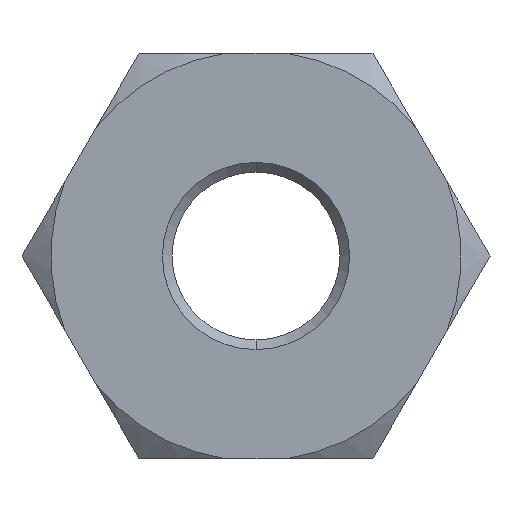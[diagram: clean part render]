
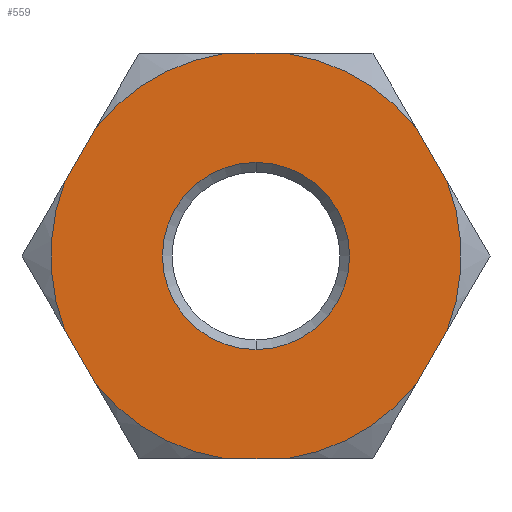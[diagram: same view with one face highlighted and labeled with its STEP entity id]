
A CAD part, front view. The second image highlights one B-rep face of the part: STEP entity #559.
In plain terms, the highlighted planar face has unit normal (0, -1, 0).
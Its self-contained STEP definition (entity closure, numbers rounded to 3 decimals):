
#9 = CIRCLE ( 'NONE', #275, 10.624 ) ;
#16 = CARTESIAN_POINT ( 'NONE',  ( -12.124, 0., 0. ) ) ;
#21 = ORIENTED_EDGE ( 'NONE', *, *, #891, .F. ) ;
#25 = CARTESIAN_POINT ( 'NONE',  ( 0., 0., 0. ) ) ;
#29 = CARTESIAN_POINT ( 'NONE',  ( -8.283, 0., -6.654 ) ) ;
#30 = AXIS2_PLACEMENT_3D ( 'NONE', #805, #883, #984 ) ;
#32 = CARTESIAN_POINT ( 'NONE',  ( 6.062, 0., -10.5 ) ) ;
#36 = DIRECTION ( 'NONE',  ( 0., 1., 0. ) ) ;
#38 = PLANE ( 'NONE',  #163 ) ;
#80 = CIRCLE ( 'NONE', #980, 10.624 ) ;
#81 = EDGE_CURVE ( 'NONE', #308, #529, #962, .T. ) ;
#87 = CARTESIAN_POINT ( 'NONE',  ( 0., 0., 0. ) ) ;
#88 = DIRECTION ( 'NONE',  ( -0.5, 0., 0.866 ) ) ;
#100 = CARTESIAN_POINT ( 'NONE',  ( 0., 0., 0. ) ) ;
#103 = CARTESIAN_POINT ( 'NONE',  ( -9.904, 0., 3.846 ) ) ;
#110 = LINE ( 'NONE', #930, #976 ) ;
#112 = DIRECTION ( 'NONE',  ( 0., 0., 1. ) ) ;
#117 = DIRECTION ( 'NONE',  ( 0., 0., 1. ) ) ;
#120 = VECTOR ( 'NONE', #684, 1000. ) ;
#128 = ORIENTED_EDGE ( 'NONE', *, *, #182, .F. ) ;
#129 = CARTESIAN_POINT ( 'NONE',  ( -8.283, 0., 6.654 ) ) ;
#131 = CIRCLE ( 'NONE', #1007, 4.85 ) ;
#137 = CARTESIAN_POINT ( 'NONE',  ( 0., 0., 0. ) ) ;
#157 = CARTESIAN_POINT ( 'NONE',  ( -6.062, 0., -10.5 ) ) ;
#163 = AXIS2_PLACEMENT_3D ( 'NONE', #387, #36, #614 ) ;
#182 = EDGE_CURVE ( 'NONE', #515, #865, #829, .T. ) ;
#183 = CARTESIAN_POINT ( 'NONE',  ( 6.062, 0., 10.5 ) ) ;
#188 = EDGE_CURVE ( 'NONE', #1101, #252, #340, .T. ) ;
#191 = VECTOR ( 'NONE', #272, 1000. ) ;
#205 = ORIENTED_EDGE ( 'NONE', *, *, #244, .F. ) ;
#207 = EDGE_CURVE ( 'NONE', #617, #529, #80, .T. ) ;
#244 = EDGE_CURVE ( 'NONE', #759, #1061, #110, .T. ) ;
#246 = CIRCLE ( 'NONE', #349, 10.624 ) ;
#251 = CARTESIAN_POINT ( 'NONE',  ( 9.904, 0., -3.846 ) ) ;
#252 = VERTEX_POINT ( 'NONE', #103 ) ;
#255 = CARTESIAN_POINT ( 'NONE',  ( 0., 0., 0. ) ) ;
#272 = DIRECTION ( 'NONE',  ( -1., 0., 0. ) ) ;
#275 = AXIS2_PLACEMENT_3D ( 'NONE', #292, #352, #117 ) ;
#292 = CARTESIAN_POINT ( 'NONE',  ( 0., 0., 0. ) ) ;
#301 = AXIS2_PLACEMENT_3D ( 'NONE', #25, #686, #112 ) ;
#308 = VERTEX_POINT ( 'NONE', #251 ) ;
#322 = VERTEX_POINT ( 'NONE', #508 ) ;
#327 = LINE ( 'NONE', #16, #120 ) ;
#330 = VECTOR ( 'NONE', #852, 1000. ) ;
#336 = DIRECTION ( 'NONE',  ( 0., 1., 0. ) ) ;
#340 = CIRCLE ( 'NONE', #301, 10.624 ) ;
#349 = AXIS2_PLACEMENT_3D ( 'NONE', #255, #837, #1021 ) ;
#352 = DIRECTION ( 'NONE',  ( 0., 1., 0. ) ) ;
#387 = CARTESIAN_POINT ( 'NONE',  ( 0., 0., 0. ) ) ;
#418 = DIRECTION ( 'NONE',  ( -0.5, 0., -0.866 ) ) ;
#430 = VERTEX_POINT ( 'NONE', #502 ) ;
#431 = EDGE_LOOP ( 'NONE', ( #21, #205, #500, #463, #824, #812, #704, #550, #741, #764, #666, #128 ) ) ;
#445 = CARTESIAN_POINT ( 'NONE',  ( 0., 0., 0. ) ) ;
#463 = ORIENTED_EDGE ( 'NONE', *, *, #509, .F. ) ;
#466 = VERTEX_POINT ( 'NONE', #29 ) ;
#500 = ORIENTED_EDGE ( 'NONE', *, *, #1069, .F. ) ;
#502 = CARTESIAN_POINT ( 'NONE',  ( 0., 0., 4.85 ) ) ;
#508 = CARTESIAN_POINT ( 'NONE',  ( -1.621, 0., -10.5 ) ) ;
#509 = EDGE_CURVE ( 'NONE', #252, #591, #327, .T. ) ;
#514 = DIRECTION ( 'NONE',  ( 0., 1., 0. ) ) ;
#515 = VERTEX_POINT ( 'NONE', #779 ) ;
#517 = DIRECTION ( 'NONE',  ( 0., 0., -1. ) ) ;
#529 = VERTEX_POINT ( 'NONE', #850 ) ;
#543 = CARTESIAN_POINT ( 'NONE',  ( 0., 0., -4.85 ) ) ;
#550 = ORIENTED_EDGE ( 'NONE', *, *, #1078, .F. ) ;
#559 = ADVANCED_FACE ( 'NONE', ( #595, #1094 ), #38, .F. ) ;
#566 = AXIS2_PLACEMENT_3D ( 'NONE', #87, #336, #924 ) ;
#589 = DIRECTION ( 'NONE',  ( 1., 0., 0. ) ) ;
#591 = VERTEX_POINT ( 'NONE', #129 ) ;
#595 = FACE_BOUND ( 'NONE', #1058, .T. ) ;
#603 = CARTESIAN_POINT ( 'NONE',  ( 1.621, 0., 10.5 ) ) ;
#614 = DIRECTION ( 'NONE',  ( 0., 0., 1. ) ) ;
#617 = VERTEX_POINT ( 'NONE', #711 ) ;
#622 = CIRCLE ( 'NONE', #755, 10.624 ) ;
#642 = DIRECTION ( 'NONE',  ( 0., 1., 0. ) ) ;
#656 = EDGE_CURVE ( 'NONE', #865, #308, #622, .T. ) ;
#660 = VECTOR ( 'NONE', #418, 1000. ) ;
#666 = ORIENTED_EDGE ( 'NONE', *, *, #656, .F. ) ;
#684 = DIRECTION ( 'NONE',  ( 0.5, 0., 0.866 ) ) ;
#686 = DIRECTION ( 'NONE',  ( 0., 1., 0. ) ) ;
#704 = ORIENTED_EDGE ( 'NONE', *, *, #918, .F. ) ;
#711 = CARTESIAN_POINT ( 'NONE',  ( 1.621, 0., -10.5 ) ) ;
#728 = DIRECTION ( 'NONE',  ( 0., 0., 1. ) ) ;
#736 = CARTESIAN_POINT ( 'NONE',  ( -1.621, 0., 10.5 ) ) ;
#741 = ORIENTED_EDGE ( 'NONE', *, *, #207, .T. ) ;
#747 = EDGE_CURVE ( 'NONE', #430, #973, #1029, .T. ) ;
#749 = CARTESIAN_POINT ( 'NONE',  ( 12.124, 0., 0. ) ) ;
#755 = AXIS2_PLACEMENT_3D ( 'NONE', #137, #642, #728 ) ;
#759 = VERTEX_POINT ( 'NONE', #736 ) ;
#764 = ORIENTED_EDGE ( 'NONE', *, *, #81, .F. ) ;
#768 = ORIENTED_EDGE ( 'NONE', *, *, #934, .T. ) ;
#773 = VECTOR ( 'NONE', #88, 1000. ) ;
#779 = CARTESIAN_POINT ( 'NONE',  ( 8.283, 0., 6.654 ) ) ;
#793 = LINE ( 'NONE', #32, #191 ) ;
#805 = CARTESIAN_POINT ( 'NONE',  ( 0., 0., 0. ) ) ;
#812 = ORIENTED_EDGE ( 'NONE', *, *, #866, .F. ) ;
#824 = ORIENTED_EDGE ( 'NONE', *, *, #188, .F. ) ;
#829 = LINE ( 'NONE', #183, #330 ) ;
#837 = DIRECTION ( 'NONE',  ( 0., 1., 0. ) ) ;
#850 = CARTESIAN_POINT ( 'NONE',  ( 8.283, 0., -6.654 ) ) ;
#852 = DIRECTION ( 'NONE',  ( 0.5, 0., -0.866 ) ) ;
#865 = VERTEX_POINT ( 'NONE', #1088 ) ;
#866 = EDGE_CURVE ( 'NONE', #466, #1101, #971, .T. ) ;
#883 = DIRECTION ( 'NONE',  ( 0., 1., 0. ) ) ;
#891 = EDGE_CURVE ( 'NONE', #1061, #515, #945, .T. ) ;
#918 = EDGE_CURVE ( 'NONE', #322, #466, #246, .T. ) ;
#924 = DIRECTION ( 'NONE',  ( 0., 0., 1. ) ) ;
#930 = CARTESIAN_POINT ( 'NONE',  ( -6.062, 0., 10.5 ) ) ;
#934 = EDGE_CURVE ( 'NONE', #973, #430, #131, .T. ) ;
#938 = DIRECTION ( 'NONE',  ( 0., 0., 1. ) ) ;
#945 = CIRCLE ( 'NONE', #566, 10.624 ) ;
#950 = CARTESIAN_POINT ( 'NONE',  ( -9.904, 0., -3.846 ) ) ;
#962 = LINE ( 'NONE', #749, #660 ) ;
#971 = LINE ( 'NONE', #157, #773 ) ;
#973 = VERTEX_POINT ( 'NONE', #543 ) ;
#976 = VECTOR ( 'NONE', #589, 1000. ) ;
#980 = AXIS2_PLACEMENT_3D ( 'NONE', #445, #1020, #517 ) ;
#984 = DIRECTION ( 'NONE',  ( 0., 0., 1. ) ) ;
#991 = ORIENTED_EDGE ( 'NONE', *, *, #747, .T. ) ;
#1007 = AXIS2_PLACEMENT_3D ( 'NONE', #100, #514, #938 ) ;
#1020 = DIRECTION ( 'NONE',  ( 0., -1., 0. ) ) ;
#1021 = DIRECTION ( 'NONE',  ( 0., 0., 1. ) ) ;
#1029 = CIRCLE ( 'NONE', #30, 4.85 ) ;
#1058 = EDGE_LOOP ( 'NONE', ( #768, #991 ) ) ;
#1061 = VERTEX_POINT ( 'NONE', #603 ) ;
#1069 = EDGE_CURVE ( 'NONE', #591, #759, #9, .T. ) ;
#1078 = EDGE_CURVE ( 'NONE', #617, #322, #793, .T. ) ;
#1088 = CARTESIAN_POINT ( 'NONE',  ( 9.904, 0., 3.846 ) ) ;
#1094 = FACE_OUTER_BOUND ( 'NONE', #431, .T. ) ;
#1101 = VERTEX_POINT ( 'NONE', #950 ) ;
